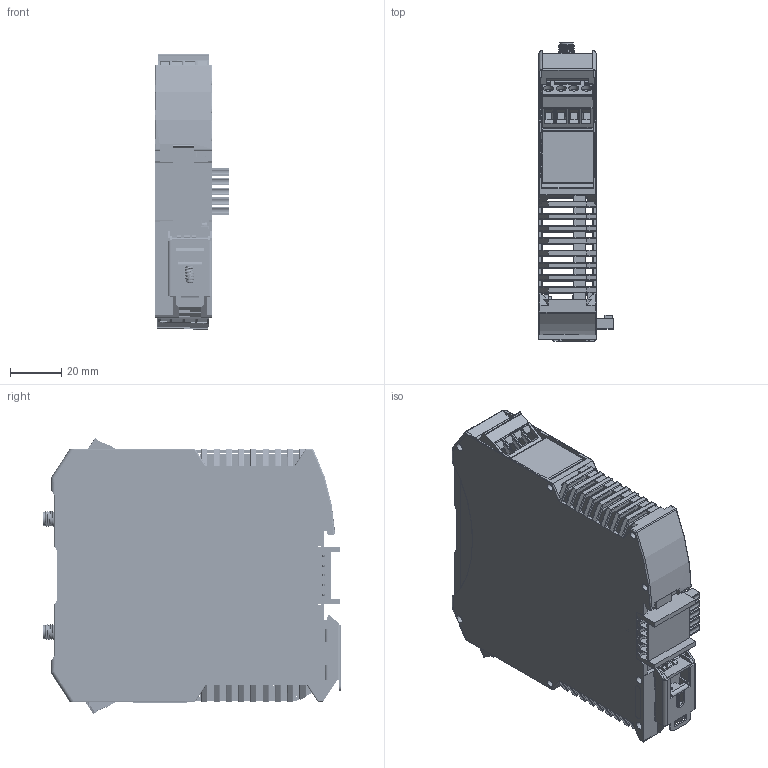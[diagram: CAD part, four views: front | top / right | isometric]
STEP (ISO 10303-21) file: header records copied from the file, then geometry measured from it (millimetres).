
FILE_DESCRIPTION(('STEP AP214'), '1');
FILE_NAME('NLS-Gateway-LoRa-1RS-1CAN-PoE â ñòåïêó', '', ('UNSPECIFIED'), ('UNSPECIFIED'), 'C3D Converter', 'C3D Toolkit', '');
FILE_SCHEMA(('AUTOMOTIVE_DESIGN { 1 0 10303 214 3 1 1}'));
Length unit declared in the file: millimetre
Bounding box: 29.21 x 116.8 x 107.99 mm (x, y, z)
Volume: 67669.5 mm3; surface area: 96929 mm2
Topology: 7 solids, 41 shells, 6814 faces, 18837 edges, 12335 vertices
Faces by surface type: plane 4120, extrusion 1260, cylinder 1259, cone 92, bspline 30, torus 27, sphere 22, revolution 4
Full cylindrical faces by diameter (mm): 0.3 x208, 0.4 x34, 0.6 x6, 0.8 x3, 0.9 x20, 0.92 x4, 0.95 x1, 0.953 x2, 1 x22, 1.02 x4, 1.06 x2, 1.1 x1, 1.2 x1, 1.27 x4, 1.35 x4, 1.4 x10, 1.6 x20, 1.7 x12, 2 x9, 2.2 x8, 2.5 x1, 2.6 x6, 2.8 x8, 3 x16, 3.25 x2, 3.796 x8, 4 x8, 4.102 x2, 4.5 x1, 4.521 x2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
Entity records: 291559 total; most frequent: CARTESIAN_POINT 67456, ORIENTED_EDGE 36697, DIRECTION 30041, EDGE_CURVE 18350, VECTOR 14093, LINE 12833, VERTEX_POINT 12580, EDGE_LOOP 8406
